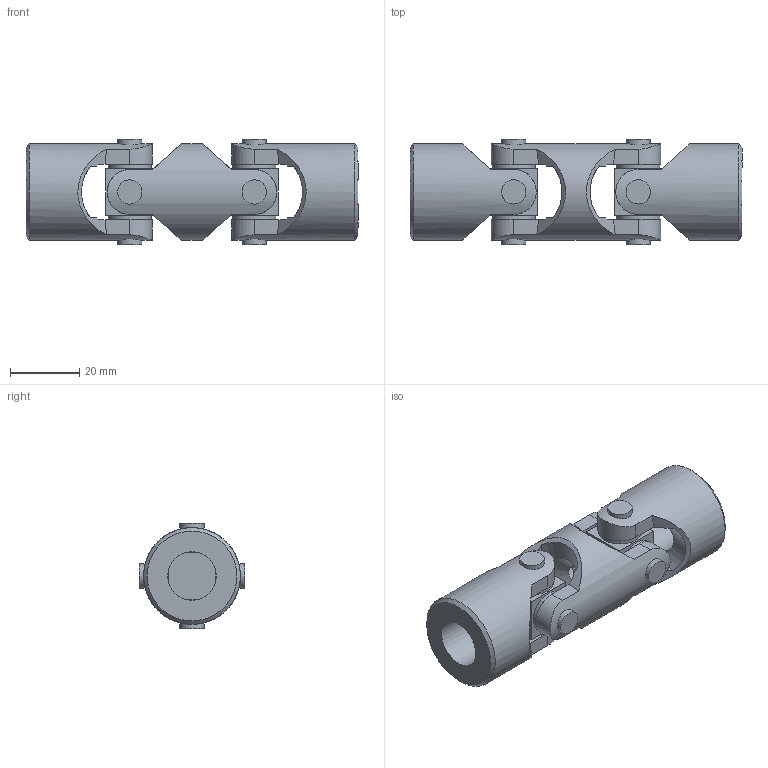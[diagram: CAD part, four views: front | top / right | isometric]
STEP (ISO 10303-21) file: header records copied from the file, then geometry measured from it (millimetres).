
FILE_DESCRIPTION(/* description */ (''),/* implementation_level */ '2;1');
FILE_NAME(/* name */ '\\SRV2016\Societa\Stefano\Disegni 3D\0Catalogo 3D\14Doppi XD\Ø28_05XD_SX0D1400.stp',/* time_stamp */ '2023-05-15T08:42:28+02:00',/* author */ ('acquisti'),/* organization */ (''),/* preprocessor_version */ 'ST-DEVELOPER v15.6',/* originating_system */ 'Autodesk Inventor 2015',/* authorisation */ '');
FILE_SCHEMA (('AUTOMOTIVE_DESIGN { 1 0 10303 214 3 1 1 }'));
Length unit declared in the file: millimetre
Products named in the file (4): 05X MOD; 05X SFE; 05X MOS; Ø28_05XD_SX0D1400
Assembly tree (5 placements, depth 2):
  Ø28_05XD_SX0D1400
    05X MOD
    05X SFE  x2
    05X MOS  x2
Bounding box: 96 x 30.5 x 30.5 mm (x, y, z)
Volume: 38325.5 mm3; surface area: 16435 mm2
Topology: 5 solids, 5 shells, 121 faces, 307 edges, 208 vertices
Faces by surface type: plane 62, cylinder 33, cone 22, torus 4
Full cylindrical faces by diameter (mm): 7 x8, 12.5 x8, 14 x2, 14.5 x4, 28 x3
Entity records: 2986 total; most frequent: CARTESIAN_POINT 1130, ORIENTED_EDGE 362, DIRECTION 346, EDGE_CURVE 181, AXIS2_PLACEMENT_3D 149, VERTEX_POINT 135, EDGE_LOOP 116, FACE_OUTER_BOUND 82
